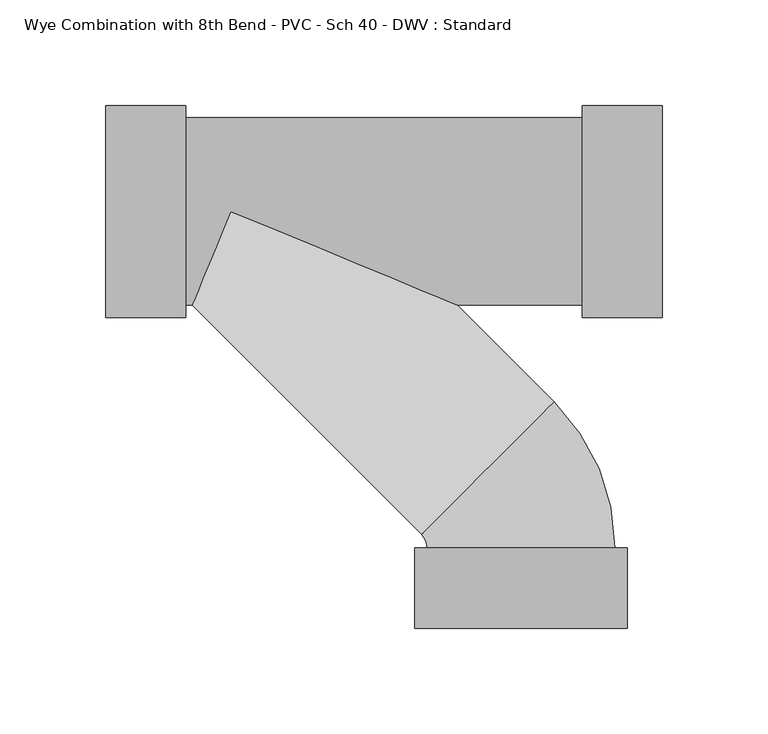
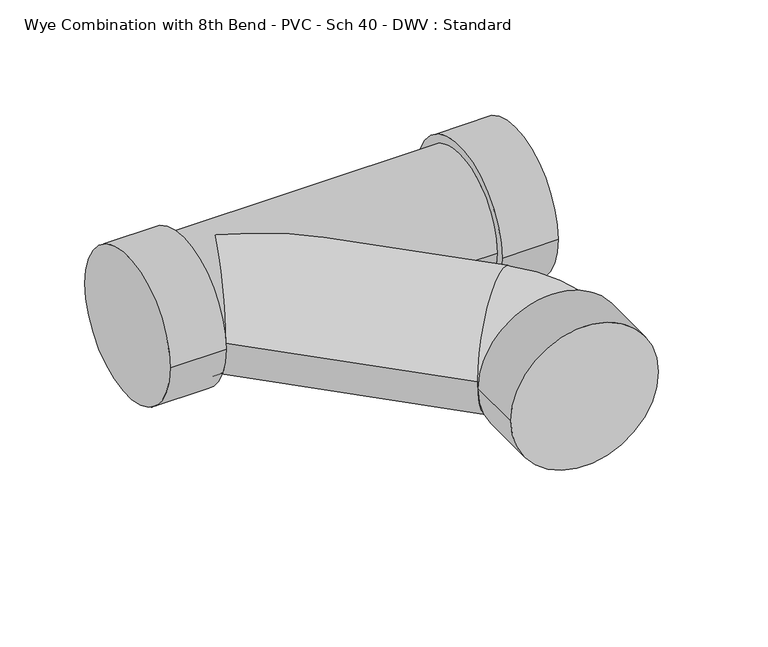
"""IFC4 building model written with IfcOpenShell, lengths in millimetres: pipe fitting geometry, Wye Combination with 8th Bend - PVC - Sch 40 - DWV : Standard."""

import ifcopenshell
import ifcopenshell.guid

model = None  # the IFC model being written
_history = None  # IfcOwnerHistory: only IFC2X3 demands one
_inside = {}  # id of a spatial element -> (the spatial element, [elements in it])
_under = {}  # id of a project, library or spatial element -> (it, [spatial elements below it])
_declared = {}  # id of a project -> (the project, [libraries it declares])
_typed = {}  # id of a type object -> (the type object, [elements of that type])
_made_of = {}  # id of a material, layer set ... -> (it, [elements and type objects made of it])


def new_model(schema):
    """Start an empty IFC model of exactly this schema.

    Asked for "IFC4X3", IfcOpenShell would pick the latest addendum, in which some entities
    have other attributes; the version numbers below select the first issue.
    IFC2X3 requires an IfcOwnerHistory on every rooted entity: one is made here for all.
    """
    global model, _history
    if schema == "IFC4X3":
        model = ifcopenshell.file(schema_version=(4, 3, 0, 0))
    else:
        model = ifcopenshell.file(schema=schema)
    _inside.clear()
    _under.clear()
    _declared.clear()
    _typed.clear()
    _made_of.clear()
    _history = None
    if model.schema == "IFC2X3":
        org = make("IfcOrganization", Name="unknown")
        user = make(
            "IfcPersonAndOrganization",
            ThePerson=make("IfcPerson", FamilyName="unknown"),
            TheOrganization=org,
        )
        app = make(
            "IfcApplication",
            ApplicationDeveloper=org,
            Version="unknown",
            ApplicationFullName="unknown",
            ApplicationIdentifier="unknown",
        )
        _history = make(
            "IfcOwnerHistory",
            OwningUser=user,
            OwningApplication=app,
            ChangeAction="ADDED",
            CreationDate=0,
        )
    return model


def make(cls, **values):
    """One entity of the class cls with the attributes given. An attribute that is None is left unset."""
    return model.create_entity(
        cls, **{name: value for name, value in values.items() if value is not None}
    )


def rooted(cls, **values):
    """An entity with a GlobalId (a new one), such as an element, a storey or a relation."""
    return make(cls, GlobalId=ifcopenshell.guid.new(), OwnerHistory=_history, **values)


def si_unit(unit_type, name, prefix=None):
    """IfcSIUnit, for example si_unit("LENGTHUNIT", "METRE", prefix="MILLI")."""
    return make("IfcSIUnit", UnitType=unit_type, Prefix=prefix, Name=name)


def assignment(units):
    """IfcUnitAssignment: the units of a project."""
    return None if units is None else make("IfcUnitAssignment", Units=units)


def point(xyz):
    """IfcCartesianPoint."""
    return None if xyz is None else make("IfcCartesianPoint", Coordinates=xyz)


def direction(xyz):
    """IfcDirection."""
    return None if xyz is None else make("IfcDirection", DirectionRatios=xyz)


def frame(location, z_axis=None, x_axis=None):
    """IfcAxis2Placement3D, a coordinate frame: its origin and axes. An axis left out is left unset."""
    return make(
        "IfcAxis2Placement3D",
        Location=point(location),
        Axis=direction(z_axis),
        RefDirection=direction(x_axis),
    )


def origin():
    """The frame at (0, 0, 0) with its axes left unset."""
    return frame((0.0, 0.0, 0.0))


def place(relative_to, where):
    """IfcLocalPlacement: puts the frame where relative to a parent placement (None: the world)."""
    return make(
        "IfcLocalPlacement", PlacementRelTo=relative_to, RelativePlacement=where
    )


def context(
    kind, dimensions, precision=None, world=None, true_north=None, identifier=None
):
    """IfcGeometricRepresentationContext, for example the 3D "Model" context."""
    return make(
        "IfcGeometricRepresentationContext",
        ContextIdentifier=identifier,
        ContextType=kind,
        CoordinateSpaceDimension=dimensions,
        Precision=precision,
        WorldCoordinateSystem=world,
        TrueNorth=true_north,
    )


def project(units=None, contexts=None):
    """IfcProject with its units and contexts."""
    return rooted(
        "IfcProject",
        Name="project",
        RepresentationContexts=contexts,
        UnitsInContext=assignment(units),
    )


def spatial(cls, under=None, at=None, **own):
    """A site, building, storey or space (cls), placed at a placement, below another one or the project."""
    s = rooted(cls, ObjectPlacement=at, **own)
    if under is not None:
        _under.setdefault(under.id(), (under, []))[1].append(s)
    return s


def circle_curve(where, radius):
    """IfcCircle in the frame where."""
    return make("IfcCircle", Position=where, Radius=radius)


def ellipse_curve(where, semi_axis1, semi_axis2):
    """IfcEllipse in the frame where."""
    return make(
        "IfcEllipse", Position=where, SemiAxis1=semi_axis1, SemiAxis2=semi_axis2
    )


def trimmed(basis, trim1, trim2, sense, master):
    """IfcTrimmedCurve: the piece of a basis curve between two trims."""
    return make(
        "IfcTrimmedCurve",
        BasisCurve=basis,
        Trim1=trim1,
        Trim2=trim2,
        SenseAgreement=sense,
        MasterRepresentation=master,
    )


def shape(context_of_items, identifier, shape_type, items):
    """IfcShapeRepresentation: the items that make up one representation, for example the "Body"."""
    return make(
        "IfcShapeRepresentation",
        ContextOfItems=context_of_items,
        RepresentationIdentifier=identifier,
        RepresentationType=shape_type,
        Items=items,
    )


def source(mapping_origin, context_of_items, identifier, shape_type, items):
    """IfcRepresentationMap: a shape defined once, which mapped items show again and again."""
    return make(
        "IfcRepresentationMap",
        MappingOrigin=mapping_origin,
        MappedRepresentation=shape(context_of_items, identifier, shape_type, items),
    )


def transform(
    local_origin,
    x_axis=None,
    y_axis=None,
    z_axis=None,
    scale=None,
    scale2=None,
    scale3=None,
    uniform=True,
):
    """IfcCartesianTransformationOperator3D, or its non-uniform kind. x_axis, y_axis, z_axis: its Axis1, 2, 3."""
    if uniform:
        return make(
            "IfcCartesianTransformationOperator3D",
            Axis1=direction(x_axis),
            Axis2=direction(y_axis),
            LocalOrigin=point(local_origin),
            Scale=scale,
            Axis3=direction(z_axis),
        )
    return make(
        "IfcCartesianTransformationOperator3DnonUniform",
        Axis1=direction(x_axis),
        Axis2=direction(y_axis),
        LocalOrigin=point(local_origin),
        Scale=scale,
        Axis3=direction(z_axis),
        Scale2=scale2,
        Scale3=scale3,
    )


def mapped(mapping_source, mapping_target):
    """IfcMappedItem: shows the shape of a source again, moved by a transform."""
    return make(
        "IfcMappedItem", MappingSource=mapping_source, MappingTarget=mapping_target
    )


def made_of(thing, what):
    """Note that an element or type object is made of a material, layer set ...; save() writes the relation."""
    if what is not None:
        _made_of.setdefault(what.id(), (what, []))[1].append(thing)
    return thing


def element(
    cls,
    number,
    at=None,
    inside=None,
    cuts=None,
    type_object=None,
    material=None,
    context=None,
    identifier="Body",
    shape_type=None,
    held_by="IfcProductDefinitionShape",
    body=None,
    shapes=None,
    **own,
):
    """One element of the class cls, such as IfcWall. Its Tag is "e" and its number.

    at: its placement. inside: the storey or other place that contains it. cuts: it is an
    opening in that element (IfcRelVoidsElement). A single representation is given by context,
    identifier, shape_type and body (its items); several are given by shapes. held_by: the class
    of the entity that holds the representations. save() writes the other relations.
    """
    e = rooted(cls, Tag="e%d" % number, ObjectPlacement=at, **own)
    if body is not None:
        shapes = [shape(context, identifier, shape_type, body)]
    if shapes is not None:
        e.Representation = make(held_by, Representations=shapes)
    if inside is not None:
        _inside.setdefault(inside.id(), (inside, []))[1].append(e)
    if cuts is not None:
        rooted(
            "IfcRelVoidsElement", RelatingBuildingElement=cuts, RelatedOpeningElement=e
        )
    if type_object is not None:
        _typed.setdefault(type_object.id(), (type_object, []))[1].append(e)
    return made_of(e, material)


def aggregate(whole, parts):
    """IfcRelAggregates: a whole, such as a stair, and the parts it consists of."""
    return rooted("IfcRelAggregates", RelatingObject=whole, RelatedObjects=parts)


def save(model, path):
    """Write the relations noted so far, then the file.

    IfcRelAggregates (storeys below a building ...), IfcRelContainedInSpatialStructure (elements
    in a storey), IfcRelDefinesByType, IfcRelAssociatesMaterial and IfcRelDeclares: one each for
    every whole, place, type object, material and project.
    """
    for whole, parts in _under.values():
        aggregate(whole, parts)
    for where, things in _inside.values():
        rooted(
            "IfcRelContainedInSpatialStructure",
            RelatedElements=things,
            RelatingStructure=where,
        )
    for kind, things in _typed.values():
        rooted("IfcRelDefinesByType", RelatedObjects=things, RelatingType=kind)
    for what, things in _made_of.values():
        rooted("IfcRelAssociatesMaterial", RelatedObjects=things, RelatingMaterial=what)
    for by, libraries in _declared.values():
        rooted("IfcRelDeclares", RelatingContext=by, RelatedDefinitions=libraries)
    model.write(path)


def plane_surface(at):
    """IfcPlane: the flat surface through the origin of the frame at, square to its z axis."""
    return make("IfcPlane", Position=at)


def cylinder_surface(at, radius):
    """IfcCylindricalSurface: all points at the distance radius from the z axis of the frame at."""
    return make("IfcCylindricalSurface", Position=at, Radius=radius)


def revolved_surface(curve, axis_point, axis_direction):
    """IfcSurfaceOfRevolution: the curve turned about the line through axis_point along axis_direction."""
    return make(
        "IfcSurfaceOfRevolution",
        SweptCurve=make("IfcArbitraryOpenProfileDef", ProfileType="CURVE", Curve=curve),
        AxisPosition=make("IfcAxis1Placement", Location=point(axis_point), Axis=direction(axis_direction)),
    )


def advanced_brep(points, edges, surfaces, faces):
    """IfcAdvancedBrep: a solid bounded by faces that lie on surfaces and meet in shared edges.

    An edge is (start, end): straight between two places in points (the first is 0);
    or (start, end, curve); or (start, end, curve, False) where it runs against its curve.
    A face is (place in surfaces, loops), or (place, loops, False) where it looks against
    its surface's normal. A loop lists edges by number (the first is 1), with a minus sign
    where the edge is run from its end to its start. The first loop is the outer one.
    """
    corners = [point(p) for p in points]
    vertices = [make("IfcVertexPoint", VertexGeometry=c) for c in corners]
    made = []
    for start, end, *more in edges:
        made.append(
            make(
                "IfcEdgeCurve",
                EdgeStart=vertices[start],
                EdgeEnd=vertices[end],
                EdgeGeometry=more[0] if more else make("IfcPolyline", Points=[corners[start], corners[end]]),
                SameSense=more[1] if len(more) > 1 else True,
            )
        )
    hull = []
    for where, loops, *sense in faces:
        bounds = []
        for j, loop in enumerate(loops):
            ring = [make("IfcOrientedEdge", EdgeElement=made[abs(k) - 1], Orientation=k > 0) for k in loop]
            bounds.append(
                make(
                    "IfcFaceOuterBound" if j == 0 else "IfcFaceBound",
                    Bound=make("IfcEdgeLoop", EdgeList=ring),
                    Orientation=True,
                )
            )
        hull.append(make("IfcAdvancedFace", Bounds=bounds, FaceSurface=surfaces[where], SameSense=sense[0] if sense else True))
    return make("IfcAdvancedBrep", Outer=make("IfcClosedShell", CfsFaces=hull))


def wye_combination_with_8th_bend_pvc_sch_40_dwv_standard_399af0eb(model_context):
    return source(origin(), model_context, "Body", "AdvancedBrep", [
        advanced_brep(
        [(-196.847941, -50.2666, 0.0), (-196.847941, 50.2666, 0.0), (-158.747941, -50.2666, 0.0), (-158.747941, 50.2666, 0.0), (-158.747941, -44.45, 0.0), (-158.747941, 44.45, 0.0), (28.983459, 44.45, 0.0), (-155.811588, -44.45, 0.0), (-137.3997952, 0.0, 44.45), (-30.0880023, -44.45, 0.0), (28.983459, -44.45, 0.0), (-137.3997952, 0.0, -44.45), (28.983459, -50.2666, 0.0), (28.983459, 50.2666, 0.0), (67.083459, -50.2666, 0.0), (67.083459, 50.2666, 0.0), (-47.0815196, -153.1800684, 0.0), (-44.447941, -159.5379737, 0.0), (44.452059, -159.5368263, 0.0), (15.7802732, -90.3182756, 0.0), (-50.264541, -159.5380488, 0.0), (50.268659, -159.5367512, 0.0), (-50.2640492, -197.6380488, 0.0), (50.2691508, -197.6367512, 0.0)],
        [
            (0, 1, circle_curve(frame((-196.847941, 0.0, 0.0), z_axis=(-1.0, 0.0, 0.0), x_axis=(0.0, 1.0, 0.0)), 50.2666)),
            (1, 0, circle_curve(frame((-196.847941, 0.0, 0.0), z_axis=(-1.0, 0.0, 0.0), x_axis=(0.0, 1.0, 0.0)), 50.2666)),
            (2, 3, circle_curve(frame((-158.747941, 0.0, 0.0), z_axis=(1.0, 0.0, 0.0), x_axis=(0.0, 1.0, 0.0)), 50.2666)),
            (3, 2, circle_curve(frame((-158.747941, 0.0, 0.0), z_axis=(1.0, 0.0, 0.0), x_axis=(0.0, 1.0, 0.0)), 50.2666)),
            (4, 5, circle_curve(frame((-158.747941, 0.0, 0.0), z_axis=(-1.0, 0.0, 0.0), x_axis=(0.0, 1.0, 0.0)), 44.45)),
            (5, 4, circle_curve(frame((-158.747941, 0.0, 0.0), z_axis=(-1.0, 0.0, 0.0), x_axis=(0.0, 1.0, 0.0)), 44.45)),
            (0, 2),
            (3, 1),
            (6, 5),
            (4, 7),
            (7, 8, ellipse_curve(frame((-137.3997952, 0.0, 0.0), z_axis=(-0.9238795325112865, 0.38268343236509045, 0.0), x_axis=(-0.38268343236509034, -0.9238795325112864, 0.0)), 48.1123333, 44.45)),
            (8, 9, ellipse_curve(frame((-137.3997952, 0.0, 0.0), z_axis=(0.38268343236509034, 0.9238795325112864, 0.0), x_axis=(-0.9238795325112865, 0.38268343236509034, 0.0)), 116.1534476, 44.45)),
            (9, 10),
            (10, 6, circle_curve(frame((28.983459, 0.0, 0.0), z_axis=(-1.0, 0.0, 0.0), x_axis=(0.0, 1.0, 0.0)), 44.45)),
            (6, 10, circle_curve(frame((28.983459, 0.0, 0.0), z_axis=(-1.0, 0.0, 0.0), x_axis=(0.0, 1.0, 0.0)), 44.45)),
            (9, 11, ellipse_curve(frame((-137.3997952, 0.0, 0.0), z_axis=(0.38268343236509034, 0.9238795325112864, 0.0), x_axis=(-0.9238795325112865, 0.38268343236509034, 0.0)), 116.1534476, 44.45)),
            (11, 7, ellipse_curve(frame((-137.3997952, 0.0, 0.0), z_axis=(-0.9238795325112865, 0.38268343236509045, 0.0), x_axis=(-0.38268343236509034, -0.9238795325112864, 0.0)), 48.1123333, 44.45)),
            (12, 13, circle_curve(frame((28.983459, 0.0, 0.0), z_axis=(-1.0, 0.0, 0.0), x_axis=(0.0, 1.0, 0.0)), 50.2666)),
            (13, 12, circle_curve(frame((28.983459, 0.0, 0.0), z_axis=(-1.0, 0.0, 0.0), x_axis=(0.0, 1.0, 0.0)), 50.2666)),
            (14, 15, circle_curve(frame((67.083459, 0.0, 0.0), z_axis=(1.0, 0.0, 0.0), x_axis=(0.0, 1.0, 0.0)), 50.2666)),
            (15, 14, circle_curve(frame((67.083459, 0.0, 0.0), z_axis=(1.0, 0.0, 0.0), x_axis=(0.0, 1.0, 0.0)), 50.2666)),
            (12, 14),
            (15, 13),
            (16, 17, circle_curve(frame((-53.439541, -159.5380897, 0.0), z_axis=(0.0, 0.0, -1.0), x_axis=(0.9999999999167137, 1.2906299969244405e-05, 0.0)), 8.9916)),
            (17, 18, circle_curve(frame((0.002059, -159.5374, 0.0), z_axis=(-1.2906299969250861e-05, 0.9999999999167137, 0.0), x_axis=(-0.9999999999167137, -1.2906299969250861e-05, 0.0)), 44.45)),
            (18, 19, circle_curve(frame((-53.439541, -159.5380897, 0.0), z_axis=(0.0, 0.0, 1.0), x_axis=(0.9999999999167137, 1.2906299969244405e-05, 0.0)), 97.8916)),
            (19, 16, circle_curve(frame((-15.6506232, -121.749172, 0.0), z_axis=(0.7071067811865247, -0.7071067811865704, 0.0), x_axis=(-0.7071067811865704, -0.7071067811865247, 0.0)), 44.45)),
            (16, 19, circle_curve(frame((-15.6506232, -121.749172, 0.0), z_axis=(0.707106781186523, -0.7071067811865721, 0.0), x_axis=(-0.7071067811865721, -0.707106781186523, 0.0)), 44.45)),
            (18, 17, circle_curve(frame((0.002059, -159.5374, 0.0), z_axis=(-1.2906299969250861e-05, 0.9999999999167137, 0.0), x_axis=(-0.9999999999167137, -1.2906299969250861e-05, 0.0)), 44.45)),
            (19, 9),
            (7, 16),
            (20, 21, circle_curve(frame((0.002059, -159.5374, 0.0), z_axis=(-1.2906299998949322e-05, 0.9999999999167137, 0.0), x_axis=(0.9999999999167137, 1.2906299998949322e-05, 0.0)), 50.2666)),
            (21, 20, circle_curve(frame((0.002059, -159.5374, 0.0), z_axis=(-1.2906299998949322e-05, 0.9999999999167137, 0.0), x_axis=(0.9999999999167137, 1.2906299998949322e-05, 0.0)), 50.2666)),
            (22, 23, circle_curve(frame((0.0025508, -197.6374, 0.0), z_axis=(1.2906299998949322e-05, -0.9999999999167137, 0.0), x_axis=(0.9999999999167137, 1.2906299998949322e-05, 0.0)), 50.2666)),
            (23, 22, circle_curve(frame((0.0025508, -197.6374, 0.0), z_axis=(1.2906299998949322e-05, -0.9999999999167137, 0.0), x_axis=(0.9999999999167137, 1.2906299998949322e-05, 0.0)), 50.2666)),
            (20, 22),
            (23, 21),
        ],
        [
            plane_surface(frame((-196.847941, 0.0, 0.0), z_axis=(-1.0, 0.0, 0.0), x_axis=(0.0, 0.0, 1.0))),
            plane_surface(frame((-158.747941, 0.0, 0.0), z_axis=(1.0, 0.0, 0.0), x_axis=(0.0, 0.0, 1.0))),
            cylinder_surface(frame((-196.847941, 0.0, 0.0), z_axis=(-1.0, 0.0, 0.0), x_axis=(0.0, 1.0, 0.0)), 50.2666),
            cylinder_surface(frame((-158.747941, 0.0, 0.0), z_axis=(-1.0, 0.0, 0.0), x_axis=(0.0, 1.0, 0.0)), 44.45),
            plane_surface(frame((28.983459, 0.0, 0.0), z_axis=(-1.0, 0.0, 0.0), x_axis=(0.0, 0.0, 1.0))),
            plane_surface(frame((67.083459, 0.0, 0.0), z_axis=(1.0, 0.0, 0.0), x_axis=(0.0, 0.0, 1.0))),
            cylinder_surface(frame((28.983459, 0.0, 0.0), z_axis=(-1.0, 0.0, 0.0), x_axis=(0.0, 1.0, 0.0)), 50.2666),
            revolved_surface(trimmed(ellipse_curve(frame((0.002059, -159.5374, 0.0), z_axis=(1.2906299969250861e-05, -0.9999999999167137, 0.0), x_axis=(-0.9999999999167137, -1.2906299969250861e-05, 0.0)), 44.45, 44.45), [point((44.452059, -159.5368263, 0.0))], [point((-44.447941, -159.5379737, 0.0))], True, "CARTESIAN"), (-53.439541, -159.5380897, 0.0), (0.0, 0.0, 1.0)),
            revolved_surface(trimmed(ellipse_curve(frame((0.002059, -159.5374, 0.0), z_axis=(1.2906299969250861e-05, -0.9999999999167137, 0.0), x_axis=(-0.9999999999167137, -1.2906299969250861e-05, 0.0)), 44.45, 44.45), [point((-44.447941, -159.5379737, 0.0))], [point((44.452059, -159.5368263, 0.0))], True, "CARTESIAN"), (-53.439541, -159.5380897, 0.0), (0.0, 0.0, 1.0)),
            cylinder_surface(frame((-15.6506232, -121.749172, 0.0), z_axis=(0.7071067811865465, -0.7071067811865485, 0.0), x_axis=(-0.7071067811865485, -0.7071067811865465, 0.0)), 44.45),
            plane_surface(frame((0.002059, -159.5374, 0.0), z_axis=(-1.2906299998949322e-05, 0.9999999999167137, 0.0), x_axis=(0.0, 0.0, 1.0))),
            plane_surface(frame((0.0025508, -197.6374, 0.0), z_axis=(1.2906299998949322e-05, -0.9999999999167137, 0.0), x_axis=(0.0, 0.0, 1.0))),
            cylinder_surface(frame((0.002059, -159.5374, 0.0), z_axis=(-1.2906299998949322e-05, 0.9999999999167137, 0.0), x_axis=(0.9999999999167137, 1.2906299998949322e-05, 0.0)), 50.2666),
        ],
        [
            (0, [[1, 2]]),
            (1, [[3, 4], [5, 6]]),
            (2, [[-1, 7, -4, 8]]),
            (2, [[-2, -8, -3, -7]]),
            (3, [[9, -5, 10, 11, 12, 13, 14]]),
            (3, [[-9, 15, -13, 16, 17, -10, -6]]),
            (4, [[18, 19], [-14, -15]]),
            (5, [[20, 21]]),
            (6, [[-18, 22, -21, 23]]),
            (6, [[-19, -23, -20, -22]]),
            (7, [[24, 25, 26, 27]]),
            (8, [[-24, 28, -26, 29]]),
            (9, [[-27, 30, -12, -11, 31]]),
            (9, [[-28, -31, -17, -16, -30]]),
            (10, [[32, 33], [-25, -29]]),
            (11, [[34, 35]]),
            (12, [[-32, 36, -35, 37]]),
            (12, [[-33, -37, -34, -36]]),
        ],
    ),
    ])


if __name__ == "__main__":
    model = new_model("IFC4")
    model_context = context("Model", 3, world=origin())
    ifc_project = project(units=[si_unit("LENGTHUNIT", "METRE", prefix="MILLI")], contexts=[model_context])
    site = spatial("IfcSite", under=ifc_project)
    building = spatial("IfcBuilding", under=site)
    placement = place(None, origin())
    wye_combination_with_8th_bend_pvc_sch_40_dwv_standard_shape = wye_combination_with_8th_bend_pvc_sch_40_dwv_standard_399af0eb(model_context)
    element("IfcPipeFitting", 1, ObjectType="Wye Combination with 8th Bend - PVC - Sch 40 - DWV : Standard", at=placement, inside=building, context=model_context, shape_type="MappedRepresentation", body=[
        mapped(wye_combination_with_8th_bend_pvc_sch_40_dwv_standard_shape, transform((0.0, 0.0, 0.0), x_axis=(1.0, 0.0, 0.0), y_axis=(0.0, 1.0, 0.0), z_axis=(0.0, 0.0, 1.0))),
    ])
    save(model, "model.ifc")
